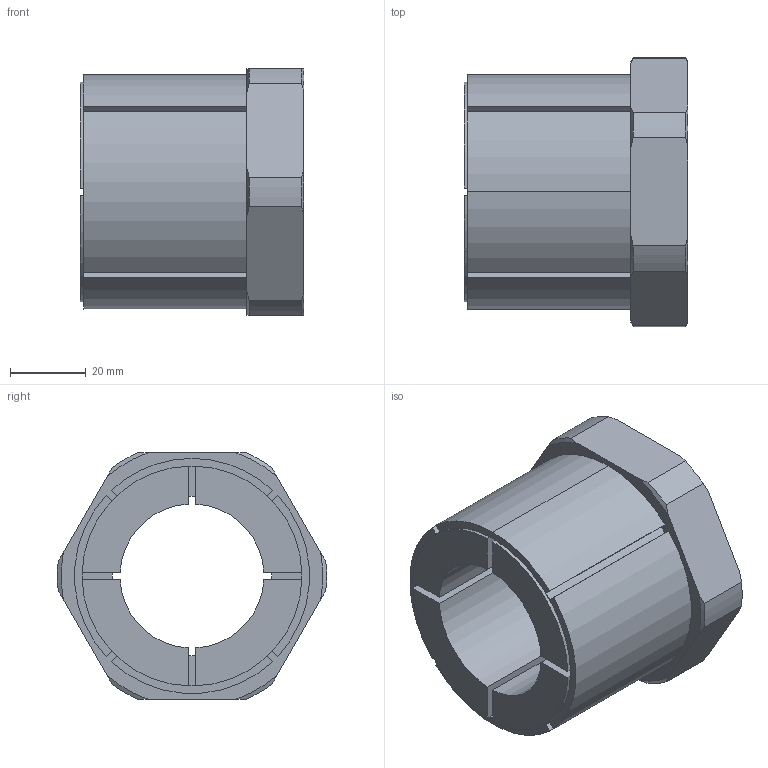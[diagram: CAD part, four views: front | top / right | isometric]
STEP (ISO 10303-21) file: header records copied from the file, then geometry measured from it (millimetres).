
FILE_DESCRIPTION (( 'STEP AP203' ), '1' );
FILE_NAME ('KBS 58 - 38 x 62.STEP', '2015-07-05T20:00:03', ( '' ), ( '' ), 'SwSTEP 2.0', 'SolidWorks 2010', '' );
FILE_SCHEMA (( 'CONFIG_CONTROL_DESIGN' ));
Length unit declared in the file: millimetre
Products named in the file (1): KBS 58 - 38 x 62
Bounding box: 59 x 70.95 x 65 mm (x, y, z)
Volume: 114133.2 mm3; surface area: 29082.3 mm2
Topology: 1 solids, 1 shells, 79 faces, 220 edges, 144 vertices
Faces by surface type: plane 37, cylinder 26, cone 16
Entity records: 2687 total; most frequent: CARTESIAN_POINT 564, ORIENTED_EDGE 440, DIRECTION 428, EDGE_CURVE 220, AXIS2_PLACEMENT_3D 160, VERTEX_POINT 144, VECTOR 108, LINE 108
